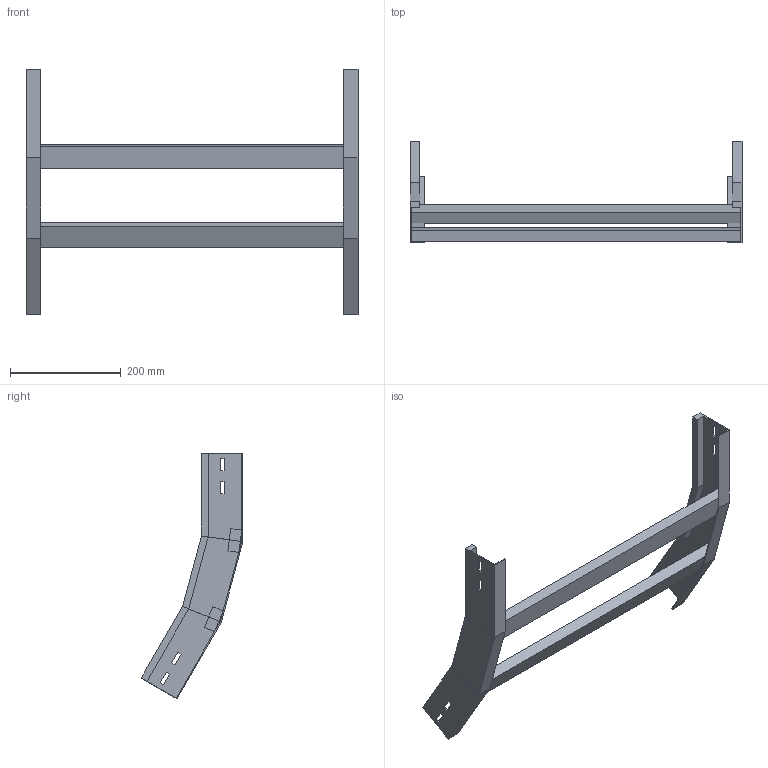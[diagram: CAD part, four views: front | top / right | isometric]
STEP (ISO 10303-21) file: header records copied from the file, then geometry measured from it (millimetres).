
FILE_DESCRIPTION (( 'STEP AP214' ), '1' );
FILE_NAME ('B2X32B5C600XX.step', '2025-03-20T10:03:31', ( '' ), ( '' ), 'SwSTEP 2.0', 'SolidWorks 2023', '' );
FILE_SCHEMA (( 'AUTOMOTIVE_DESIGN' ));
Length unit declared in the file: millimetre
Products named in the file (3): B2X32B5C600XX; TRAVERSINO_600; LONGH.SALITA_30°_H75_R500
Assembly tree (4 placements, depth 2):
  B2X32B5C600XX
    LONGH.SALITA_30°_H75_R500  x2
    TRAVERSINO_600  x2
Bounding box: 600 x 183.88 x 443.86 mm (x, y, z)
Volume: 1311919.5 mm3; surface area: 361072.3 mm2
Topology: 4 solids, 4 shells, 96 faces, 232 edges, 144 vertices
Faces by surface type: plane 96
Entity records: 1472 total; most frequent: CARTESIAN_POINT 243, ORIENTED_EDGE 232, DIRECTION 226, LINE 116, VECTOR 116, EDGE_CURVE 116, VERTEX_POINT 72, EDGE_LOOP 56
